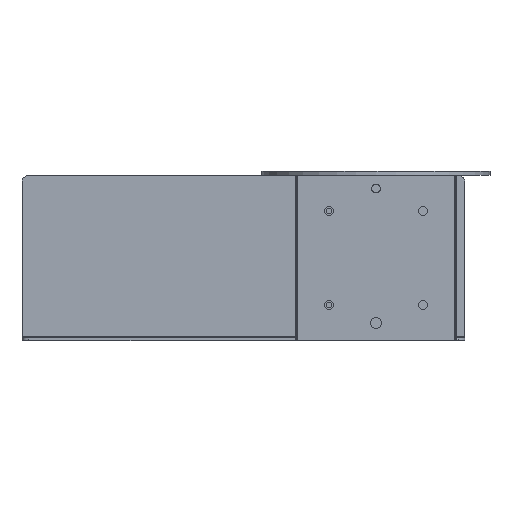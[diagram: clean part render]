
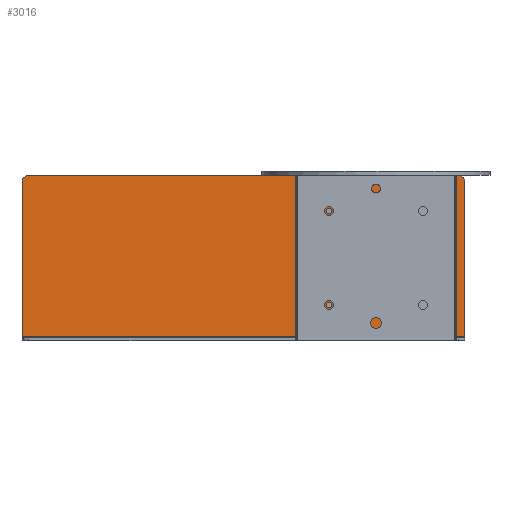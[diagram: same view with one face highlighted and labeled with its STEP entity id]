
A CAD part, front view. The second image highlights one B-rep face of the part: STEP entity #3016.
In plain terms, the highlighted planar face has unit normal (0, -1, 0).
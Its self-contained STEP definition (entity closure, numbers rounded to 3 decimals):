
#19=DIRECTION('',(-1.,0.,0.));
#20=VECTOR('',#19,320.);
#21=CARTESIAN_POINT('',(160.,-2.,60.));
#22=LINE('',#21,#20);
#23=CARTESIAN_POINT('',(160.,-2.,55.));
#24=DIRECTION('',(0.,-1.,0.));
#25=DIRECTION('',(1.,0.,0.));
#26=AXIS2_PLACEMENT_3D('',#23,#24,#25);
#28=DIRECTION('',(0.,0.,1.));
#29=VECTOR('',#28,115.);
#30=CARTESIAN_POINT('',(165.,-2.,-60.));
#31=LINE('',#30,#29);
#32=DIRECTION('',(0.,0.,-1.));
#33=VECTOR('',#32,115.);
#34=CARTESIAN_POINT('',(-165.,-2.,55.));
#35=LINE('',#34,#33);
#36=CARTESIAN_POINT('',(-160.,-2.,55.));
#37=DIRECTION('',(0.,-1.,0.));
#38=DIRECTION('',(0.,0.,1.));
#39=AXIS2_PLACEMENT_3D('',#36,#37,#38);
#41=CARTESIAN_POINT('',(63.75,-2.,-36.5));
#42=DIRECTION('',(0.,1.,0.));
#43=DIRECTION('',(0.,0.,-1.));
#44=AXIS2_PLACEMENT_3D('',#41,#42,#43);
#46=CARTESIAN_POINT('',(63.75,-2.,-36.5));
#47=DIRECTION('',(0.,1.,0.));
#48=DIRECTION('',(0.,0.,1.));
#49=AXIS2_PLACEMENT_3D('',#46,#47,#48);
#51=CARTESIAN_POINT('',(141.75,-2.,33.5));
#52=DIRECTION('',(0.,1.,0.));
#53=DIRECTION('',(0.,0.,-1.));
#54=AXIS2_PLACEMENT_3D('',#51,#52,#53);
#56=CARTESIAN_POINT('',(141.75,-2.,33.5));
#57=DIRECTION('',(0.,1.,0.));
#58=DIRECTION('',(0.,0.,1.));
#59=AXIS2_PLACEMENT_3D('',#56,#57,#58);
#61=CARTESIAN_POINT('',(98.8,-2.,0.));
#62=DIRECTION('',(0.,-1.,0.));
#63=DIRECTION('',(0.,0.,-1.));
#64=AXIS2_PLACEMENT_3D('',#61,#62,#63);
#66=CARTESIAN_POINT('',(98.8,-2.,0.));
#67=DIRECTION('',(0.,-1.,0.));
#68=DIRECTION('',(0.,0.,1.));
#69=AXIS2_PLACEMENT_3D('',#66,#67,#68);
#71=CARTESIAN_POINT('',(141.75,-2.,-36.5));
#72=DIRECTION('',(0.,1.,0.));
#73=DIRECTION('',(0.,0.,-1.));
#74=AXIS2_PLACEMENT_3D('',#71,#72,#73);
#76=CARTESIAN_POINT('',(141.75,-2.,-36.5));
#77=DIRECTION('',(0.,1.,0.));
#78=DIRECTION('',(0.,0.,1.));
#79=AXIS2_PLACEMENT_3D('',#76,#77,#78);
#81=CARTESIAN_POINT('',(63.75,-2.,33.5));
#82=DIRECTION('',(0.,1.,0.));
#83=DIRECTION('',(0.,0.,-1.));
#84=AXIS2_PLACEMENT_3D('',#81,#82,#83);
#86=CARTESIAN_POINT('',(63.75,-2.,33.5));
#87=DIRECTION('',(0.,1.,0.));
#88=DIRECTION('',(0.,0.,1.));
#89=AXIS2_PLACEMENT_3D('',#86,#87,#88);
#1921=DIRECTION('',(-1.,0.,0.));
#1922=VECTOR('',#1921,330.);
#1923=CARTESIAN_POINT('',(165.,-2.,-60.));
#1924=LINE('',#1923,#1922);
#2269=CARTESIAN_POINT('',(141.75,-2.,-38.5));
#2271=VERTEX_POINT('',#2269);
#2342=CARTESIAN_POINT('',(160.,-2.,60.));
#2344=VERTEX_POINT('',#2342);
#2365=CARTESIAN_POINT('',(-160.,-2.,60.));
#2366=CARTESIAN_POINT('',(-165.,-2.,55.));
#2367=VERTEX_POINT('',#2365);
#2368=VERTEX_POINT('',#2366);
#2487=CARTESIAN_POINT('',(141.75,-2.,35.5));
#2488=CARTESIAN_POINT('',(141.75,-2.,31.5));
#2489=VERTEX_POINT('',#2487);
#2490=VERTEX_POINT('',#2488);
#2506=CARTESIAN_POINT('',(-165.,-2.,-60.));
#2508=VERTEX_POINT('',#2506);
#2725=CARTESIAN_POINT('',(98.8,-2.,-5.05));
#2726=CARTESIAN_POINT('',(98.8,-2.,5.05));
#2727=VERTEX_POINT('',#2725);
#2728=VERTEX_POINT('',#2726);
#2763=CARTESIAN_POINT('',(63.75,-2.,-38.5));
#2764=CARTESIAN_POINT('',(63.75,-2.,-34.5));
#2765=VERTEX_POINT('',#2763);
#2766=VERTEX_POINT('',#2764);
#2767=CARTESIAN_POINT('',(165.,-2.,-60.));
#2768=VERTEX_POINT('',#2767);
#2773=CARTESIAN_POINT('',(141.75,-2.,-34.5));
#2774=VERTEX_POINT('',#2773);
#2777=CARTESIAN_POINT('',(63.75,-2.,31.5));
#2778=CARTESIAN_POINT('',(63.75,-2.,35.5));
#2779=VERTEX_POINT('',#2777);
#2780=VERTEX_POINT('',#2778);
#2911=CARTESIAN_POINT('',(165.,-2.,55.));
#2912=VERTEX_POINT('',#2911);
#2969=CARTESIAN_POINT('',(0.,-2.,0.));
#2970=DIRECTION('',(0.,1.,0.));
#2971=DIRECTION('',(0.,0.,1.));
#2972=AXIS2_PLACEMENT_3D('',#2969,#2970,#2971);
#2973=PLANE('',#2972);
#2975=ORIENTED_EDGE('',*,*,#2974,.F.);
#2977=ORIENTED_EDGE('',*,*,#2976,.F.);
#2979=ORIENTED_EDGE('',*,*,#2978,.F.);
#2981=ORIENTED_EDGE('',*,*,#2980,.T.);
#2983=ORIENTED_EDGE('',*,*,#2982,.F.);
#2985=ORIENTED_EDGE('',*,*,#2984,.F.);
#2986=EDGE_LOOP('',(#2975,#2977,#2979,#2981,#2983,#2985));
#2987=FACE_OUTER_BOUND('',#2986,.F.);
#2989=ORIENTED_EDGE('',*,*,#2988,.F.);
#2991=ORIENTED_EDGE('',*,*,#2990,.F.);
#2992=EDGE_LOOP('',(#2989,#2991));
#2993=FACE_BOUND('',#2992,.F.);
#2994=ORIENTED_EDGE('',*,*,#2948,.F.);
#2995=ORIENTED_EDGE('',*,*,#2963,.F.);
#2996=EDGE_LOOP('',(#2994,#2995));
#2997=FACE_BOUND('',#2996,.F.);
#2999=ORIENTED_EDGE('',*,*,#2998,.T.);
#3001=ORIENTED_EDGE('',*,*,#3000,.T.);
#3002=EDGE_LOOP('',(#2999,#3001));
#3003=FACE_BOUND('',#3002,.F.);
#3005=ORIENTED_EDGE('',*,*,#3004,.F.);
#3007=ORIENTED_EDGE('',*,*,#3006,.F.);
#3008=EDGE_LOOP('',(#3005,#3007));
#3009=FACE_BOUND('',#3008,.F.);
#3011=ORIENTED_EDGE('',*,*,#3010,.F.);
#3013=ORIENTED_EDGE('',*,*,#3012,.F.);
#3014=EDGE_LOOP('',(#3011,#3013));
#3015=FACE_BOUND('',#3014,.F.);
#3016=ADVANCED_FACE('',(#2987,#2993,#2997,#3003,#3009,#3015),#2973,.F.);
#27=CIRCLE('',#26,5.);
#40=CIRCLE('',#39,5.);
#45=CIRCLE('',#44,2.);
#50=CIRCLE('',#49,2.);
#55=CIRCLE('',#54,2.);
#60=CIRCLE('',#59,2.);
#65=CIRCLE('',#64,5.05);
#70=CIRCLE('',#69,5.05);
#75=CIRCLE('',#74,2.);
#80=CIRCLE('',#79,2.);
#85=CIRCLE('',#84,2.);
#90=CIRCLE('',#89,2.);
#2948=EDGE_CURVE('',#2490,#2489,#55,.T.);
#2963=EDGE_CURVE('',#2489,#2490,#60,.T.);
#2974=EDGE_CURVE('',#2344,#2367,#22,.T.);
#2976=EDGE_CURVE('',#2912,#2344,#27,.T.);
#2978=EDGE_CURVE('',#2768,#2912,#31,.T.);
#2980=EDGE_CURVE('',#2768,#2508,#1924,.T.);
#2982=EDGE_CURVE('',#2368,#2508,#35,.T.);
#2984=EDGE_CURVE('',#2367,#2368,#40,.T.);
#2988=EDGE_CURVE('',#2765,#2766,#45,.T.);
#2990=EDGE_CURVE('',#2766,#2765,#50,.T.);
#2998=EDGE_CURVE('',#2727,#2728,#65,.T.);
#3000=EDGE_CURVE('',#2728,#2727,#70,.T.);
#3004=EDGE_CURVE('',#2271,#2774,#75,.T.);
#3006=EDGE_CURVE('',#2774,#2271,#80,.T.);
#3010=EDGE_CURVE('',#2779,#2780,#85,.T.);
#3012=EDGE_CURVE('',#2780,#2779,#90,.T.);
